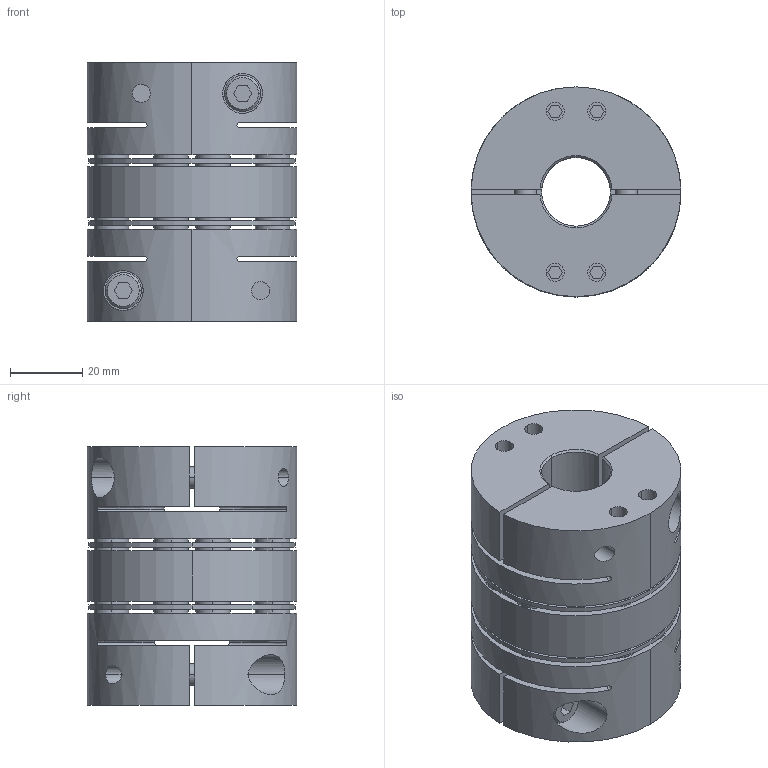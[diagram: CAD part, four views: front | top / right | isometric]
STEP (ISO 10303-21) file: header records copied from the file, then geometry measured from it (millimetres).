
FILE_DESCRIPTION((''),'2;1');
FILE_NAME('TAD-58C-19×24.stp','2022-11-13T22:25:32',(''),(''),'AutoCAD STEP 2000i','AutoCAD 2000i',', , ');
FILE_SCHEMA(('CONFIG_CONTROL_DESIGN'));
Length unit declared in the file: millimetre
Products named in the file (7): TAD-58C-12×22; 忣兜1; TA58C-22; CAP-M6×20; TA58C-12-2; TA58C-12; TAS-58C-ITA
Assembly tree (8 placements, depth 3):
  TAD-58C-12×22
    忣兜1
    TA58C-22
      CAP-M6×20
    TA58C-12-2
      CAP-M6×20
    TA58C-12
      CAP-M6×20
    TAS-58C-ITA
Bounding box: 58 x 58 x 71.5 mm (x, y, z)
Volume: 131311.6 mm3; surface area: 55329.4 mm2
Topology: 1 solids, 5 shells, 568 faces, 1361 edges, 937 vertices
Faces by surface type: plane 252, cylinder 228, cone 72, bspline 16
Entity records: 18651 total; most frequent: CARTESIAN_POINT 4810, DIRECTION 3008, ORIENTED_EDGE 2640, EDGE_CURVE 1320, AXIS2_PLACEMENT_3D 1142, VERTEX_POINT 860, EDGE_LOOP 724, VECTOR 724
